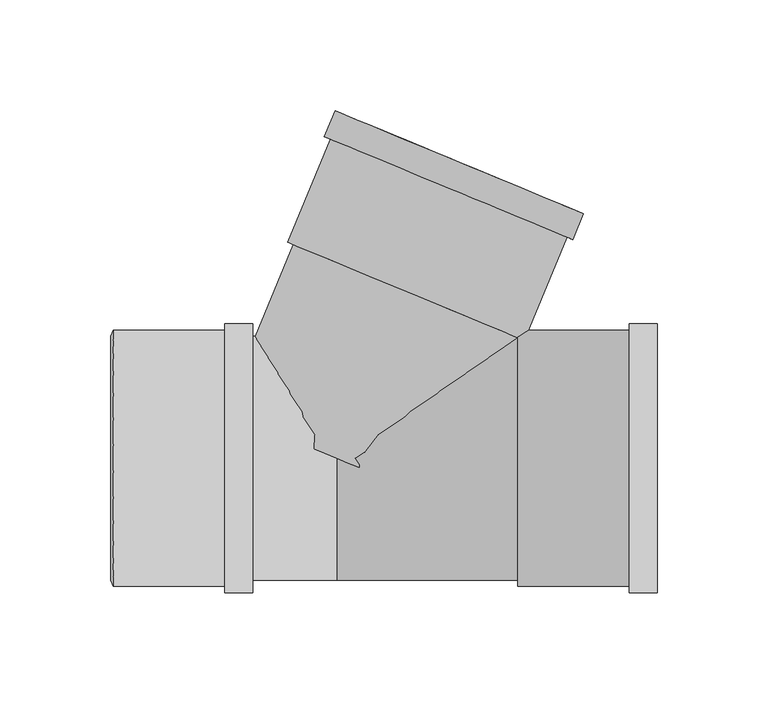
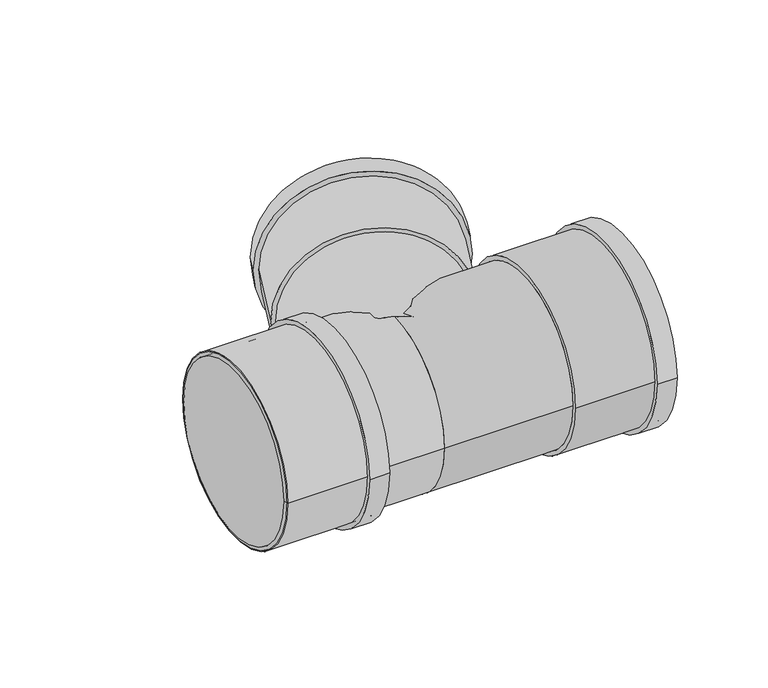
"""IFC4 building model written with IfcOpenShell, lengths in millimetres: pipe fitting geometry, Superdrain HTEA Branch : Superdrain HTEA Branch."""

from ifc_helpers import new_model, si_unit, point, frame, origin, origin_2d, place, context, project, spatial, polyline, circle_curve, trimmed, segment, composite_curve, outline, extrude, source, transform, mapped, element, save
from ifc_brep_helpers import plane_surface, revolved_surface, advanced_brep


def pipe_fitting_a1e51bce(model_context):
    return source(origin(), model_context, "Body", "SolidModel", [
        extrude(outline(composite_curve([segment(trimmed(circle_curve(origin_2d(), 57.75), [point((57.75, 0.0))], [point((-57.75, 0.0))], False, "CARTESIAN"), True, "CONTINUOUS"), segment(trimmed(circle_curve(origin_2d(), 57.75), [point((-57.75, 0.0))], [point((57.75, 0.0))], False, "CARTESIAN"), True, "CONTINUOUS")], self_intersect=False), holes=[composite_curve([segment(trimmed(circle_curve(origin_2d(), 55.0), [point((55.0, 0.0))], [point((-55.0, 0.0))], True, "CARTESIAN"), True, "CONTINUOUS"), segment(trimmed(circle_curve(origin_2d(), 55.0), [point((-55.0, 0.0))], [point((55.0, 0.0))], True, "CARTESIAN"), True, "CONTINUOUS")], self_intersect=False)]), frame((-100.9, 0.0, 0.0), z_axis=(1.0, 0.0, 0.0), x_axis=(0.0, 1.0, 0.0)), (0.0, 0.0, 1.0), 63.0),
        extrude(outline(composite_curve([segment(trimmed(circle_curve(origin_2d(), 60.6375), [point((60.6375, 0.0))], [point((-60.6375, 0.0))], False, "CARTESIAN"), True, "CONTINUOUS"), segment(trimmed(circle_curve(origin_2d(), 60.6375), [point((-60.6375, 0.0))], [point((60.6375, 0.0))], False, "CARTESIAN"), True, "CONTINUOUS")], self_intersect=False), holes=[composite_curve([segment(trimmed(circle_curve(origin_2d(), 55.0), [point((55.0, 0.0))], [point((-55.0, 0.0))], True, "CARTESIAN"), True, "CONTINUOUS"), segment(trimmed(circle_curve(origin_2d(), 55.0), [point((-55.0, 0.0))], [point((55.0, 0.0))], True, "CARTESIAN"), True, "CONTINUOUS")], self_intersect=False)]), frame((-50.5, 0.0, 0.0), z_axis=(1.0, 0.0, 0.0), x_axis=(0.0, 1.0, 0.0)), (0.0, 0.0, 1.0), 12.6),
        advanced_brep(
        [(-101.9, 55.0, 0.0), (-101.9, -55.0, 0.0), (-100.9, 57.75, 0.0), (-100.9, -57.75, 0.0)],
        [
            (0, 1, circle_curve(frame((-101.9, 0.0, 0.0), z_axis=(-1.0, 0.0, 0.0), x_axis=(0.0, 1.0, 0.0)), 55.0)),
            (1, 0, circle_curve(frame((-101.9, 0.0, 0.0), z_axis=(-1.0, 0.0, 0.0), x_axis=(0.0, -1.0, 0.0)), 55.0)),
            (2, 3, circle_curve(frame((-100.9, 0.0, 0.0), z_axis=(1.0, 0.0, 0.0), x_axis=(0.0, -1.0, 0.0)), 57.75)),
            (3, 2, circle_curve(frame((-100.9, 0.0, 0.0), z_axis=(1.0, 0.0, 0.0), x_axis=(0.0, 1.0, 0.0)), 57.75)),
            (3, 1),
            (0, 2),
        ],
        [
            plane_surface(frame((-101.9, 0.0, 0.0), z_axis=(-1.0, 0.0, 0.0), x_axis=(0.0, 0.0, -1.0))),
            plane_surface(frame((-100.9, 0.0, 0.0), z_axis=(1.0, 0.0, 0.0), x_axis=(0.0, 0.0, -1.0))),
            revolved_surface(polyline([(-101.9, 55.0, 0.0), (-100.9, 57.75, 0.0)]), (-121.9, 0.0, 0.0), (1.0, 0.0, 0.0)),
            revolved_surface(polyline([(-101.9, -55.0, 0.0), (-100.9, -57.75, 0.0)]), (-121.9, 0.0, 0.0), (1.0, 0.0, 0.0)),
        ],
        [
            (0, [[1, 2]]),
            (1, [[3, 4]]),
            (2, [[-4, 5, -1, 6]]),
            (3, [[-3, -6, -2, -5]]),
        ],
    ),
        extrude(outline(composite_curve([segment(trimmed(circle_curve(origin_2d(), 57.75), [point((-57.75, 0.0))], [point((57.75, 0.0))], False, "CARTESIAN"), True, "CONTINUOUS"), segment(trimmed(circle_curve(origin_2d(), 57.75), [point((57.75, 0.0))], [point((-57.75, 0.0))], False, "CARTESIAN"), True, "CONTINUOUS")], self_intersect=False), holes=[composite_curve([segment(trimmed(circle_curve(origin_2d(), 55.0), [point((55.0, 0.0))], [point((-55.0, 0.0))], True, "CARTESIAN"), True, "CONTINUOUS"), segment(trimmed(circle_curve(origin_2d(), 55.0), [point((-55.0, 0.0))], [point((55.0, 0.0))], True, "CARTESIAN"), True, "CONTINUOUS")], self_intersect=False)]), frame((81.6, 0.0, 0.0), z_axis=(1.0, 0.0, 0.0), x_axis=(0.0, 1.0, 0.0)), (0.0, 0.0, 1.0), 63.0),
        extrude(outline(composite_curve([segment(trimmed(circle_curve(origin_2d(), 60.6375), [point((60.6375, 0.0))], [point((-60.6375, 0.0))], False, "CARTESIAN"), True, "CONTINUOUS"), segment(trimmed(circle_curve(origin_2d(), 60.6375), [point((-60.6375, 0.0))], [point((60.6375, 0.0))], False, "CARTESIAN"), True, "CONTINUOUS")], self_intersect=False), holes=[composite_curve([segment(trimmed(circle_curve(origin_2d(), 55.0), [point((55.0, 0.0))], [point((-55.0, 0.0))], True, "CARTESIAN"), True, "CONTINUOUS"), segment(trimmed(circle_curve(origin_2d(), 55.0), [point((-55.0, 0.0))], [point((55.0, 0.0))], True, "CARTESIAN"), True, "CONTINUOUS")], self_intersect=False)]), frame((132.0, 0.0, 0.0), z_axis=(1.0, 0.0, 0.0), x_axis=(0.0, 1.0, 0.0)), (0.0, 0.0, 1.0), 12.6),
        extrude(outline(composite_curve([segment(trimmed(circle_curve(origin_2d(), 55.0), [point((0.0, 55.0))], [point((0.0, -55.0))], False, "CARTESIAN"), True, "CONTINUOUS"), segment(trimmed(circle_curve(origin_2d(), 55.0), [point((0.0, -55.0))], [point((0.0, 55.0))], False, "CARTESIAN"), True, "CONTINUOUS")], self_intersect=False)), frame((0.0, 0.0, 0.0), z_axis=(0.38268343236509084, 0.9238795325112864, 0.0), x_axis=(0.0, 0.0, 1.0)), (0.0, 0.0, 1.0), 81.6),
        extrude(outline(composite_curve([segment(trimmed(circle_curve(origin_2d(), 55.0), [point((55.0, 0.0))], [point((-55.0, 0.0))], False, "CARTESIAN"), True, "CONTINUOUS"), segment(trimmed(circle_curve(origin_2d(), 55.0), [point((-55.0, 0.0))], [point((55.0, 0.0))], False, "CARTESIAN"), True, "CONTINUOUS")], self_intersect=False)), frame((-100.9, 0.0, 0.0), z_axis=(1.0, 0.0, 0.0), x_axis=(0.0, 1.0, 0.0)), (0.0, 0.0, 1.0), 100.9),
        extrude(outline(composite_curve([segment(trimmed(circle_curve(origin_2d(), 55.0), [point((-55.0, 0.0))], [point((55.0, 0.0))], False, "CARTESIAN"), True, "CONTINUOUS"), segment(trimmed(circle_curve(origin_2d(), 55.0), [point((55.0, 0.0))], [point((-55.0, 0.0))], False, "CARTESIAN"), True, "CONTINUOUS")], self_intersect=False)), frame((0.0, 0.0, 0.0), z_axis=(1.0, 0.0, 0.0), x_axis=(0.0, 1.0, 0.0)), (0.0, 0.0, 1.0), 81.6),
        extrude(outline(composite_curve([segment(trimmed(circle_curve(origin_2d(), 60.6375), [point((0.0, 60.6374999))], [point((0.0, -60.6375))], False, "CARTESIAN"), True, "CONTINUOUS"), segment(trimmed(circle_curve(origin_2d(), 60.6375), [point((0.0, -60.6375))], [point((0.0, 60.6374999))], False, "CARTESIAN"), True, "CONTINUOUS")], self_intersect=False), holes=[composite_curve([segment(trimmed(circle_curve(origin_2d(), 55.0), [point((0.0, 55.0))], [point((0.0, -55.0))], True, "CARTESIAN"), True, "CONTINUOUS"), segment(trimmed(circle_curve(origin_2d(), 55.0), [point((0.0, -55.0))], [point((0.0, 55.0))], True, "CARTESIAN"), True, "CONTINUOUS")], self_intersect=False)]), frame((50.5142131, 121.9520983, 0.0), z_axis=(0.38268343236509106, 0.9238795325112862, 0.0), x_axis=(0.0, 0.0, 1.0)), (0.0, 0.0, 1.0), 12.6),
        extrude(outline(composite_curve([segment(trimmed(circle_curve(origin_2d(), 57.75), [point((0.0, 57.75))], [point((0.0, -57.75))], False, "CARTESIAN"), True, "CONTINUOUS"), segment(trimmed(circle_curve(origin_2d(), 57.75), [point((0.0, -57.75))], [point((0.0, 57.75))], False, "CARTESIAN"), True, "CONTINUOUS")], self_intersect=False), holes=[composite_curve([segment(trimmed(circle_curve(origin_2d(), 55.0), [point((0.0, 55.0))], [point((0.0, -55.0))], True, "CARTESIAN"), True, "CONTINUOUS"), segment(trimmed(circle_curve(origin_2d(), 55.0), [point((0.0, -55.0))], [point((0.0, 55.0))], True, "CARTESIAN"), True, "CONTINUOUS")], self_intersect=False)]), frame((31.2269681, 75.3885699, 0.0), z_axis=(0.38268343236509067, 0.9238795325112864, 0.0), x_axis=(0.0, 0.0, 1.0)), (0.0, 0.0, 1.0), 63.0),
    ])


if __name__ == "__main__":
    model = new_model("IFC4")
    model_context = context("Model", 3, world=origin())
    ifc_project = project(units=[si_unit("LENGTHUNIT", "METRE", prefix="MILLI")], contexts=[model_context])
    site = spatial("IfcSite", under=ifc_project)
    building = spatial("IfcBuilding", under=site)
    placement = place(None, origin())
    pipe_fitting_shape = pipe_fitting_a1e51bce(model_context)
    element("IfcPipeFitting", 1, ObjectType="Superdrain HTEA Branch : Superdrain HTEA Branch", at=placement, inside=building, context=model_context, shape_type="MappedRepresentation", body=[
        mapped(pipe_fitting_shape, transform((0.0, 0.0, 0.0), x_axis=(1.0, 0.0, 0.0), y_axis=(0.0, 1.0, 0.0), z_axis=(0.0, 0.0, 1.0))),
    ])
    save(model, "model.ifc")
